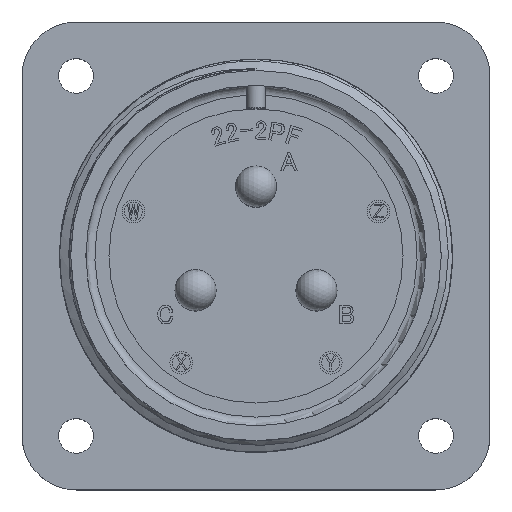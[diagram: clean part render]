
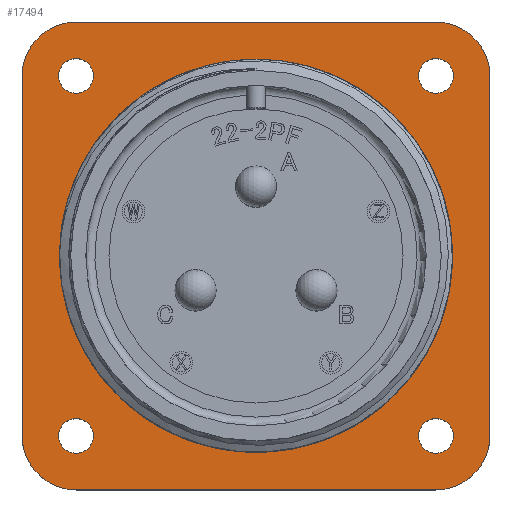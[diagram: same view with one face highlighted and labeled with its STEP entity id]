
A CAD part, top view. The second image highlights one B-rep face of the part: STEP entity #17494.
In plain terms, the highlighted planar face has unit normal (0, 0, 1).
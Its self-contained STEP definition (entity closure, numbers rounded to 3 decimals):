
#101 = DIRECTION ( 'NONE',  ( -1., 0., 0. ) ) ;
#210 = DIRECTION ( 'NONE',  ( 0., -1., 0. ) ) ;
#586 = VERTEX_POINT ( 'NONE', #18822 ) ;
#1331 = CARTESIAN_POINT ( 'NONE',  ( -15.835, -20.635, -19.2 ) ) ;
#1332 = AXIS2_PLACEMENT_3D ( 'NONE', #1982, #14294, #3727 ) ;
#1649 = EDGE_CURVE ( 'NONE', #18877, #18648, #22329, .T. ) ;
#1815 = CIRCLE ( 'NONE', #22339, 4.8 ) ;
#1982 = CARTESIAN_POINT ( 'NONE',  ( -15.835, -15.835, -19.2 ) ) ;
#2368 = CARTESIAN_POINT ( 'NONE',  ( -17.4, 15.875, -19.2 ) ) ;
#2511 = CARTESIAN_POINT ( 'NONE',  ( 0., 0., -19.2 ) ) ;
#2573 = EDGE_CURVE ( 'NONE', #586, #20543, #22571, .T. ) ;
#2659 = DIRECTION ( 'NONE',  ( -1., 0., 0. ) ) ;
#2660 = EDGE_LOOP ( 'NONE', ( #21707 ) ) ;
#2861 = CARTESIAN_POINT ( 'NONE',  ( 20.635, -15.835, -19.2 ) ) ;
#3589 = DIRECTION ( 'NONE',  ( 0., 0., -1. ) ) ;
#3727 = DIRECTION ( 'NONE',  ( -1., 0., 0. ) ) ;
#3728 = CARTESIAN_POINT ( 'NONE',  ( 20.635, 15.835, -19.2 ) ) ;
#3771 = ORIENTED_EDGE ( 'NONE', *, *, #15111, .F. ) ;
#3846 = CARTESIAN_POINT ( 'NONE',  ( 15.835, 15.835, -19.2 ) ) ;
#3873 = EDGE_CURVE ( 'NONE', #11860, #11860, #18914, .T. ) ;
#4174 = ORIENTED_EDGE ( 'NONE', *, *, #3873, .T. ) ;
#4185 = CIRCLE ( 'NONE', #14610, 1.525 ) ;
#4246 = DIRECTION ( 'NONE',  ( -1., 0., 0. ) ) ;
#4472 = CIRCLE ( 'NONE', #13823, 17.33 ) ;
#4837 = CARTESIAN_POINT ( 'NONE',  ( 15.835, 20.635, -19.2 ) ) ;
#4854 = FACE_OUTER_BOUND ( 'NONE', #21596, .T. ) ;
#4887 = ORIENTED_EDGE ( 'NONE', *, *, #7790, .F. ) ;
#4965 = EDGE_CURVE ( 'NONE', #11297, #11297, #4472, .T. ) ;
#5319 = ORIENTED_EDGE ( 'NONE', *, *, #4965, .F. ) ;
#5503 = VERTEX_POINT ( 'NONE', #11019 ) ;
#5572 = DIRECTION ( 'NONE',  ( 0., 0., -1. ) ) ;
#6699 = ORIENTED_EDGE ( 'NONE', *, *, #19681, .F. ) ;
#6828 = AXIS2_PLACEMENT_3D ( 'NONE', #21255, #10596, #101 ) ;
#7134 = CARTESIAN_POINT ( 'NONE',  ( 15.875, 15.875, -19.2 ) ) ;
#7140 = AXIS2_PLACEMENT_3D ( 'NONE', #20409, #9753, #22203 ) ;
#7312 = ORIENTED_EDGE ( 'NONE', *, *, #21480, .T. ) ;
#7316 = CARTESIAN_POINT ( 'NONE',  ( 15.875, -15.875, -19.2 ) ) ;
#7709 = ORIENTED_EDGE ( 'NONE', *, *, #19252, .F. ) ;
#7760 = DIRECTION ( 'NONE',  ( 0., 1., 0. ) ) ;
#7790 = EDGE_CURVE ( 'NONE', #20543, #16997, #16124, .T. ) ;
#8118 = VECTOR ( 'NONE', #2659, 1000. ) ;
#8334 = DIRECTION ( 'NONE',  ( 1., 0., 0. ) ) ;
#8413 = DIRECTION ( 'NONE',  ( 0., 0., -1. ) ) ;
#8502 = ORIENTED_EDGE ( 'NONE', *, *, #2573, .F. ) ;
#8723 = ORIENTED_EDGE ( 'NONE', *, *, #21401, .T. ) ;
#8827 = VERTEX_POINT ( 'NONE', #15479 ) ;
#8913 = DIRECTION ( 'NONE',  ( -1., 0., 0. ) ) ;
#8954 = FACE_BOUND ( 'NONE', #16742, .T. ) ;
#9090 = DIRECTION ( 'NONE',  ( -1., 0., 0. ) ) ;
#9514 = FACE_BOUND ( 'NONE', #21297, .T. ) ;
#9591 = VECTOR ( 'NONE', #8334, 1000. ) ;
#9693 = ORIENTED_EDGE ( 'NONE', *, *, #1649, .F. ) ;
#9716 = CIRCLE ( 'NONE', #1332, 4.8 ) ;
#9753 = DIRECTION ( 'NONE',  ( 0., 0., -1. ) ) ;
#10408 = EDGE_LOOP ( 'NONE', ( #4174 ) ) ;
#10475 = DIRECTION ( 'NONE',  ( 0., 0., -1. ) ) ;
#10596 = DIRECTION ( 'NONE',  ( 0., 0., -1. ) ) ;
#10716 = CIRCLE ( 'NONE', #17603, 1.525 ) ;
#10771 = EDGE_CURVE ( 'NONE', #16997, #18060, #14336, .T. ) ;
#10800 = EDGE_CURVE ( 'NONE', #5503, #5503, #10716, .T. ) ;
#11005 = CARTESIAN_POINT ( 'NONE',  ( 15.835, 20.635, -19.2 ) ) ;
#11019 = CARTESIAN_POINT ( 'NONE',  ( -17.4, -15.875, -19.2 ) ) ;
#11297 = VERTEX_POINT ( 'NONE', #12742 ) ;
#11425 = CIRCLE ( 'NONE', #6828, 4.8 ) ;
#11860 = VERTEX_POINT ( 'NONE', #19815 ) ;
#12742 = CARTESIAN_POINT ( 'NONE',  ( -17.33, 0., -19.2 ) ) ;
#12816 = VECTOR ( 'NONE', #210, 1000. ) ;
#13664 = VECTOR ( 'NONE', #7760, 1000. ) ;
#13696 = FACE_BOUND ( 'NONE', #2660, .T. ) ;
#13716 = CARTESIAN_POINT ( 'NONE',  ( -20.635, 15.835, -19.2 ) ) ;
#13823 = AXIS2_PLACEMENT_3D ( 'NONE', #2511, #14849, #4246 ) ;
#14152 = CARTESIAN_POINT ( 'NONE',  ( 15.835, 15.835, -19.2 ) ) ;
#14267 = FACE_BOUND ( 'NONE', #20839, .T. ) ;
#14294 = DIRECTION ( 'NONE',  ( 0., 0., -1. ) ) ;
#14336 = LINE ( 'NONE', #4837, #9591 ) ;
#14610 = AXIS2_PLACEMENT_3D ( 'NONE', #21134, #10475, #22928 ) ;
#14685 = CARTESIAN_POINT ( 'NONE',  ( 14.35, 15.875, -19.2 ) ) ;
#14849 = DIRECTION ( 'NONE',  ( 0., 0., 1. ) ) ;
#14992 = CARTESIAN_POINT ( 'NONE',  ( 15.835, -20.635, -19.2 ) ) ;
#15111 = EDGE_CURVE ( 'NONE', #8827, #22292, #17542, .T. ) ;
#15479 = CARTESIAN_POINT ( 'NONE',  ( 20.635, 15.835, -19.2 ) ) ;
#15527 = ORIENTED_EDGE ( 'NONE', *, *, #10771, .F. ) ;
#15969 = DIRECTION ( 'NONE',  ( -1., 0., 0. ) ) ;
#16124 = CIRCLE ( 'NONE', #7140, 4.8 ) ;
#16742 = EDGE_LOOP ( 'NONE', ( #8723 ) ) ;
#16997 = VERTEX_POINT ( 'NONE', #19540 ) ;
#17425 = VERTEX_POINT ( 'NONE', #14685 ) ;
#17494 = ADVANCED_FACE ( 'NONE', ( #14267, #9514, #4854, #18429, #13696, #8954 ), #21413, .F. ) ;
#17542 = LINE ( 'NONE', #3728, #12816 ) ;
#17603 = AXIS2_PLACEMENT_3D ( 'NONE', #19079, #8413, #20865 ) ;
#17750 = CIRCLE ( 'NONE', #19351, 1.525 ) ;
#17978 = DIRECTION ( 'NONE',  ( -1., 0., 0. ) ) ;
#18060 = VERTEX_POINT ( 'NONE', #11005 ) ;
#18429 = FACE_BOUND ( 'NONE', #10408, .T. ) ;
#18648 = VERTEX_POINT ( 'NONE', #1331 ) ;
#18822 = CARTESIAN_POINT ( 'NONE',  ( -20.635, -15.835, -19.2 ) ) ;
#18877 = VERTEX_POINT ( 'NONE', #21551 ) ;
#18914 = CIRCLE ( 'NONE', #21152, 1.525 ) ;
#19079 = CARTESIAN_POINT ( 'NONE',  ( -15.875, -15.875, -19.2 ) ) ;
#19252 = EDGE_CURVE ( 'NONE', #22292, #18877, #11425, .T. ) ;
#19351 = AXIS2_PLACEMENT_3D ( 'NONE', #7134, #19574, #8913 ) ;
#19540 = CARTESIAN_POINT ( 'NONE',  ( -15.835, 20.635, -19.2 ) ) ;
#19574 = DIRECTION ( 'NONE',  ( 0., 0., -1. ) ) ;
#19681 = EDGE_CURVE ( 'NONE', #18060, #8827, #1815, .T. ) ;
#19748 = DIRECTION ( 'NONE',  ( 0., 0., -1. ) ) ;
#19815 = CARTESIAN_POINT ( 'NONE',  ( 14.35, -15.875, -19.2 ) ) ;
#19846 = ORIENTED_EDGE ( 'NONE', *, *, #20193, .F. ) ;
#20193 = EDGE_CURVE ( 'NONE', #18648, #586, #9716, .T. ) ;
#20217 = CARTESIAN_POINT ( 'NONE',  ( -20.635, 15.835, -19.2 ) ) ;
#20409 = CARTESIAN_POINT ( 'NONE',  ( -15.835, 15.835, -19.2 ) ) ;
#20543 = VERTEX_POINT ( 'NONE', #13716 ) ;
#20839 = EDGE_LOOP ( 'NONE', ( #5319 ) ) ;
#20865 = DIRECTION ( 'NONE',  ( -1., 0., 0. ) ) ;
#21134 = CARTESIAN_POINT ( 'NONE',  ( -15.875, 15.875, -19.2 ) ) ;
#21152 = AXIS2_PLACEMENT_3D ( 'NONE', #7316, #19748, #9090 ) ;
#21255 = CARTESIAN_POINT ( 'NONE',  ( 15.835, -15.835, -19.2 ) ) ;
#21297 = EDGE_LOOP ( 'NONE', ( #7312 ) ) ;
#21401 = EDGE_CURVE ( 'NONE', #22157, #22157, #4185, .T. ) ;
#21413 = PLANE ( 'NONE',  #22909 ) ;
#21480 = EDGE_CURVE ( 'NONE', #17425, #17425, #17750, .T. ) ;
#21551 = CARTESIAN_POINT ( 'NONE',  ( 15.835, -20.635, -19.2 ) ) ;
#21596 = EDGE_LOOP ( 'NONE', ( #6699, #15527, #4887, #8502, #19846, #9693, #7709, #3771 ) ) ;
#21707 = ORIENTED_EDGE ( 'NONE', *, *, #10800, .T. ) ;
#22157 = VERTEX_POINT ( 'NONE', #2368 ) ;
#22203 = DIRECTION ( 'NONE',  ( -1., 0., 0. ) ) ;
#22292 = VERTEX_POINT ( 'NONE', #2861 ) ;
#22329 = LINE ( 'NONE', #14992, #8118 ) ;
#22339 = AXIS2_PLACEMENT_3D ( 'NONE', #14152, #3589, #15969 ) ;
#22571 = LINE ( 'NONE', #20217, #13664 ) ;
#22909 = AXIS2_PLACEMENT_3D ( 'NONE', #3846, #5572, #17978 ) ;
#22928 = DIRECTION ( 'NONE',  ( -1., 0., 0. ) ) ;
